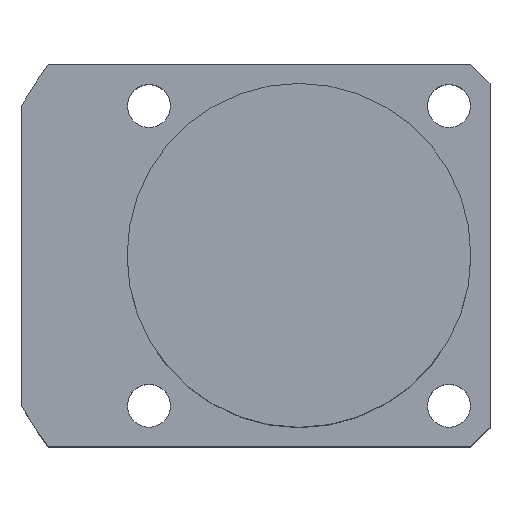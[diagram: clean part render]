
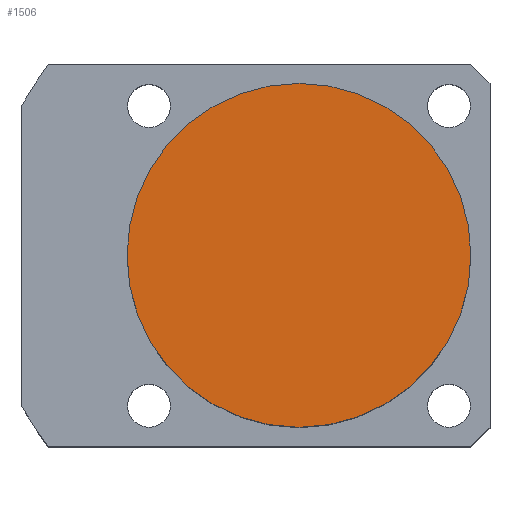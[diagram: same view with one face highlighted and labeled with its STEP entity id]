
A CAD part, top view. The second image highlights one B-rep face of the part: STEP entity #1506.
In plain terms, the highlighted planar face has unit normal (0, 0, 1).
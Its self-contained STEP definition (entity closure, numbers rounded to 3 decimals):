
#1450=CARTESIAN_POINT('',(0.0,-18.0,38.5));
#1451=VERTEX_POINT('',#1450);
#1458=CARTESIAN_POINT('',(-0.0,18.0,38.5));
#1459=VERTEX_POINT('',#1458);
#1460=CARTESIAN_POINT('',(0.0,0.0,38.5));
#1461=DIRECTION('',(0.0,0.0,1.0));
#1462=DIRECTION('',(1.0,0.0,0.0));
#1463=AXIS2_PLACEMENT_3D('',#1460,#1461,#1462);
#1464=CIRCLE('',#1463,18.0);
#1465=EDGE_CURVE('no 1957',#1459,#1451,#1464,.T.);
#1482=CARTESIAN_POINT('',(18.0,0.0,38.5));
#1483=VERTEX_POINT('',#1482);
#1484=CARTESIAN_POINT('',(0.0,0.0,38.5));
#1485=DIRECTION('',(0.0,0.0,1.0));
#1486=DIRECTION('',(1.0,0.0,0.0));
#1487=AXIS2_PLACEMENT_3D('',#1484,#1485,#1486);
#1488=CIRCLE('',#1487,18.0);
#1489=EDGE_CURVE('no 1972',#1483,#1459,#1488,.T.);
#1490=ORIENTED_EDGE('',*,*,#1489,.T.);
#1491=ORIENTED_EDGE('',*,*,#1465,.T.);
#1492=CARTESIAN_POINT('',(0.0,0.0,38.5));
#1493=DIRECTION('',(0.0,0.0,1.0));
#1494=DIRECTION('',(1.0,0.0,0.0));
#1495=AXIS2_PLACEMENT_3D('',#1492,#1493,#1494);
#1496=CIRCLE('',#1495,18.0);
#1497=EDGE_CURVE('no 1978',#1451,#1483,#1496,.T.);
#1498=ORIENTED_EDGE('',*,*,#1497,.T.);
#1499=EDGE_LOOP('',(#1490,#1491,#1498));
#1500=FACE_OUTER_BOUND('',#1499,.T.);
#1501=CARTESIAN_POINT('',(0.0,0.0,38.5));
#1502=DIRECTION('',(0.0,0.0,1.0));
#1503=DIRECTION('',(1.0,0.0,0.0));
#1504=AXIS2_PLACEMENT_3D('',#1501,#1502,#1503);
#1505=PLANE('',#1504);
#1506=ADVANCED_FACE('no 1965',(#1500),#1505,.T.);
